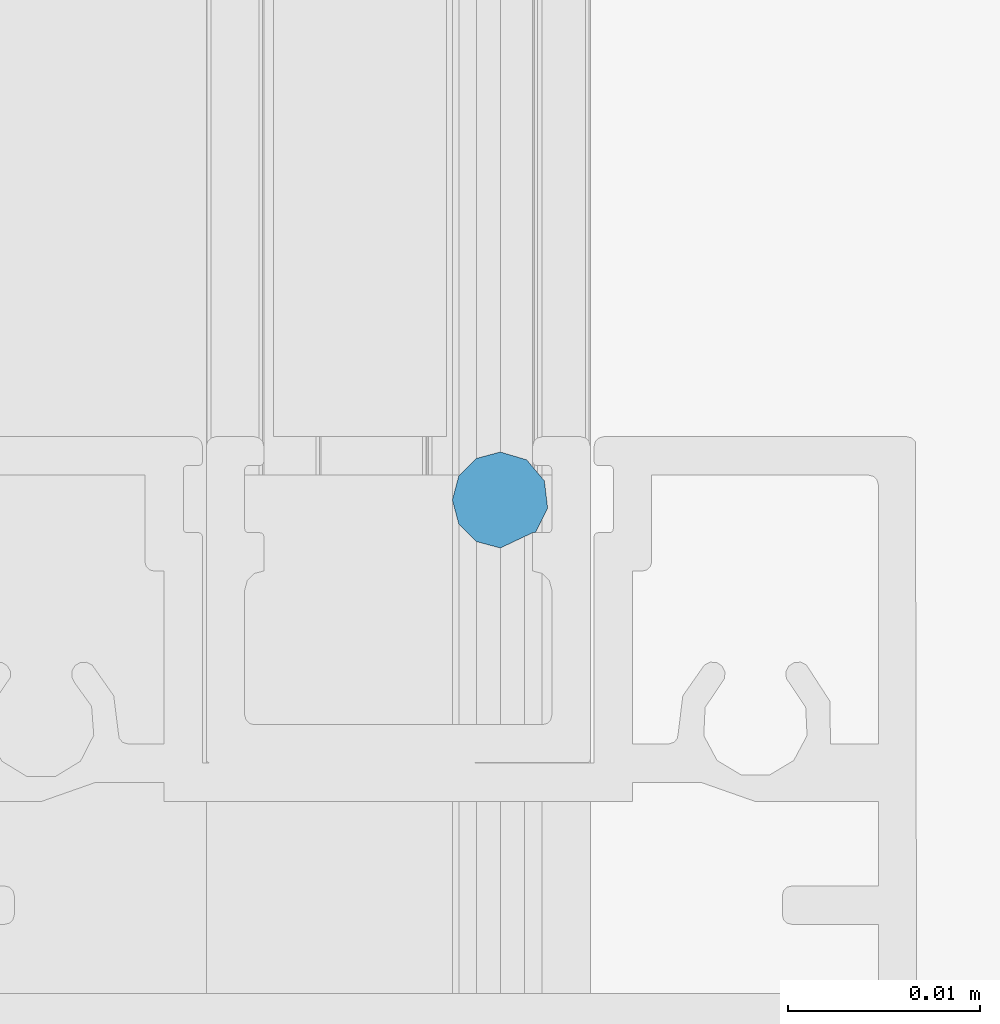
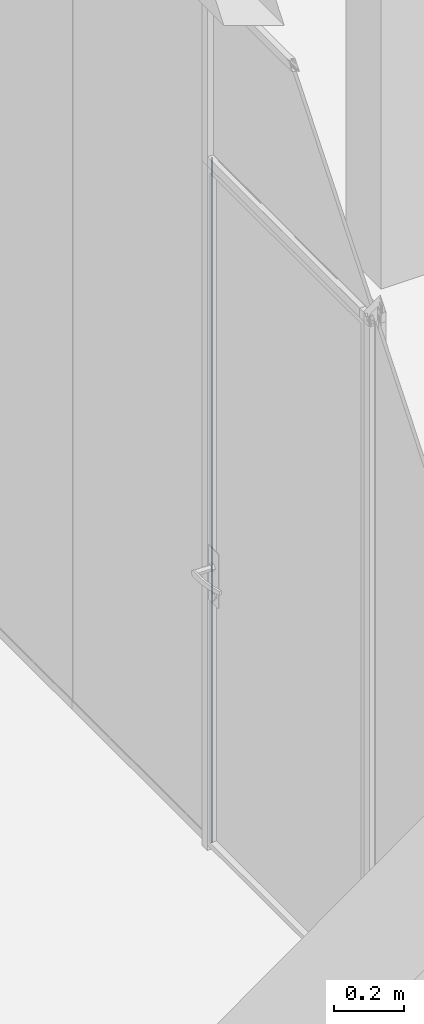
# One storey, part 63 of 387: 1 building element part, 2 elements without a shape of their own.
"""IFC2X3 building model written with IfcOpenShell, lengths in millimetres."""

from ifc_helpers import new_model, entity, si_unit, converted_unit, derived_unit, money_unit, direction, frame, origin_with_axes, place, context, subcontext, project, spatial, faceted_brep, source, transform, mapped, material, type_object, element, aggregate, save


model = new_model("IFC2X3")

# Units and contexts
model_context = context("Model", 3, precision=0.01, world=origin_with_axes(), true_north=direction((0.0, 1.0)))
body_context = subcontext(model_context, "Body", "Model", "MODEL_VIEW")
ifc_project = project(units=[si_unit("LENGTHUNIT", "METRE", prefix="MILLI"), si_unit("AREAUNIT", "SQUARE_METRE"), si_unit("VOLUMEUNIT", "CUBIC_METRE"), converted_unit("PLANEANGLEUNIT", "DEGREE", entity("IfcPlaneAngleMeasure", 0.0174532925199), si_unit("PLANEANGLEUNIT", "RADIAN"), dimensions=[0, 0, 0, 0, 0, 0, 0]), si_unit("SOLIDANGLEUNIT", "STERADIAN"), money_unit("EUR"), converted_unit("TIMEUNIT", "Year", entity("IfcTimeMeasure", 31556926.0), si_unit("TIMEUNIT", "SECOND"), dimensions=[0, 0, 1, 0, 0, 0, 0]), si_unit("MASSUNIT", "GRAM", prefix="KILO"), si_unit("THERMODYNAMICTEMPERATUREUNIT", "DEGREE_CELSIUS"), si_unit("LUMINOUSINTENSITYUNIT", "LUMEN"), si_unit("ENERGYUNIT", "JOULE", prefix="MEGA"), derived_unit("THERMALCONDUCTANCEUNIT", [(si_unit("POWERUNIT", "WATT"), 1), (si_unit("LENGTHUNIT", "METRE"), -1), (si_unit("THERMODYNAMICTEMPERATUREUNIT", "KELVIN"), -1)]), derived_unit("SPECIFICHEATCAPACITYUNIT", [(si_unit("ENERGYUNIT", "JOULE"), 1), (si_unit("MASSUNIT", "GRAM", prefix="KILO"), -1), (si_unit("THERMODYNAMICTEMPERATUREUNIT", "KELVIN"), -1)]), derived_unit("MASSDENSITYUNIT", [(si_unit("MASSUNIT", "GRAM", prefix="KILO"), 1), (si_unit("VOLUMEUNIT", "CUBIC_METRE"), -1)])], contexts=[model_context])

# Site, building, storey
site_placement = place(None, origin_with_axes())
site = spatial("IfcSite", under=ifc_project, at=site_placement, Name="Puškini 31, Narva", CompositionType="ELEMENT")
building_placement = place(site_placement, origin_with_axes())
building = spatial("IfcBuilding", under=site, at=building_placement, Name="Narva Riigigümnaasium", CompositionType="ELEMENT")
storey_placement = place(building_placement, frame((0.0, 0.0, 2640.0), z_axis=(0.0, 0.0, 1.0), x_axis=(1.0, 0.0, 0.0)))
storey = spatial("IfcBuildingStorey", under=building, at=storey_placement, Name="2.korrus +2.64", CompositionType="ELEMENT", Elevation=2640.0)

# Curtain wall, member, building element part
curtain_wall_type = type_object("IfcCurtainWallType", Name="Curtain Wall Type", PredefinedType="NOTDEFINED")
curtain_wall_placement = place(storey_placement, frame((28390.0000002, 176724.161139, -5.42380846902e-05), z_axis=(0.0, 0.0, 1.0), x_axis=(1.0, 0.0, 0.0)))
curtain_wall = element("IfcCurtainWall", 1, at=curtain_wall_placement, inside=storey, type_object=curtain_wall_type, Name="G-SKLF-12")
member_type = type_object("IfcMemberType", Name="32 x 27", PredefinedType="MULLION")
member_placement = place(curtain_wall_placement, frame((-9.13757958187e-09, 591.810892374, 0.0), z_axis=(0.0, 0.0, 1.0), x_axis=(0.0, 1.0, 0.0)))
member = element("IfcMember", 2, at=member_placement, type_object=member_type, Name="G-SKLF-12-raam", ObjectType="MULLION")
aggregate(curtain_wall, [member])
ifc_material = material(Name="Soojustus - Mineraal Kõva")
shared_shape = source(origin_with_axes(), body_context, "Body", "Brep", [
    faceted_brep([(-27.0, 6.99999999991, 0.0), (-27.0, 6.99999999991, 2400.00000477), (-26.2036516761, 5.31494614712, 2400.00000477), (-26.2036516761, 5.31494614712, 0.0), (-26.9999999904, 7.14458303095, 0.0), (-26.9999999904, 7.14458303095, 2400.00000477), (-28.2816360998, 7.77906932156, 2400.00000477), (-29.7013667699, 7.60722987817, 2400.00000477), (-30.7946188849, 6.68529507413, 2400.00000477), (-31.2036516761, 5.31494614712, 2400.00000477), (-30.8687151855, 4.06494614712, 2400.00000477), (-29.9536516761, 3.14988263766, 2400.00000477), (-28.7036516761, 2.81494614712, 2400.00000477), (-27.4536516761, 3.14988263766, 2400.00000477), (-26.5385881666, 4.06494614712, 2400.00000477), (-26.5385881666, 4.06494614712, 0.0), (-27.4536516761, 3.14988263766, 0.0), (-28.7036516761, 2.81494614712, 0.0), (-29.9536516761, 3.14988263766, 0.0), (-30.8687151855, 4.06494614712, 0.0), (-31.2036516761, 5.31494614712, 0.0), (-30.7946188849, 6.68529507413, 0.0), (-29.7013667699, 7.60722987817, 0.0), (-28.2816360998, 7.77906932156, 0.0)], [[[0, 1, 2, 3]], [[4, 5, 1, 0]], [[1, 5, 6, 7, 8, 9, 10, 11, 12, 13, 14, 2]], [[3, 2, 14, 15]], [[0, 3, 15, 16, 17, 18, 19, 20, 21, 22, 23, 4]], [[23, 6, 5, 4]], [[22, 7, 6, 23]], [[21, 8, 7, 22]], [[20, 9, 8, 21]], [[19, 10, 9, 20]], [[18, 11, 10, 19]], [[17, 12, 11, 18]], [[16, 13, 12, 17]], [[15, 14, 13, 16]]]),
])
building_element_part_placement = place(member_placement, origin_with_axes())
building_element_part = element("IfcBuildingElementPart", 3, at=building_element_part_placement, material=ifc_material, Name="Soojustus - Mineraal Kõva", context=body_context, shape_type="MappedRepresentation", body=[
    mapped(shared_shape, transform((0.0, 0.0, 0.0), x_axis=(-1.0, 0.0, 0.0), y_axis=(0.0, -1.0, 0.0), z_axis=(0.0, 0.0, 1.0))),
])
aggregate(member, [building_element_part])

save(model, "model.ifc")
